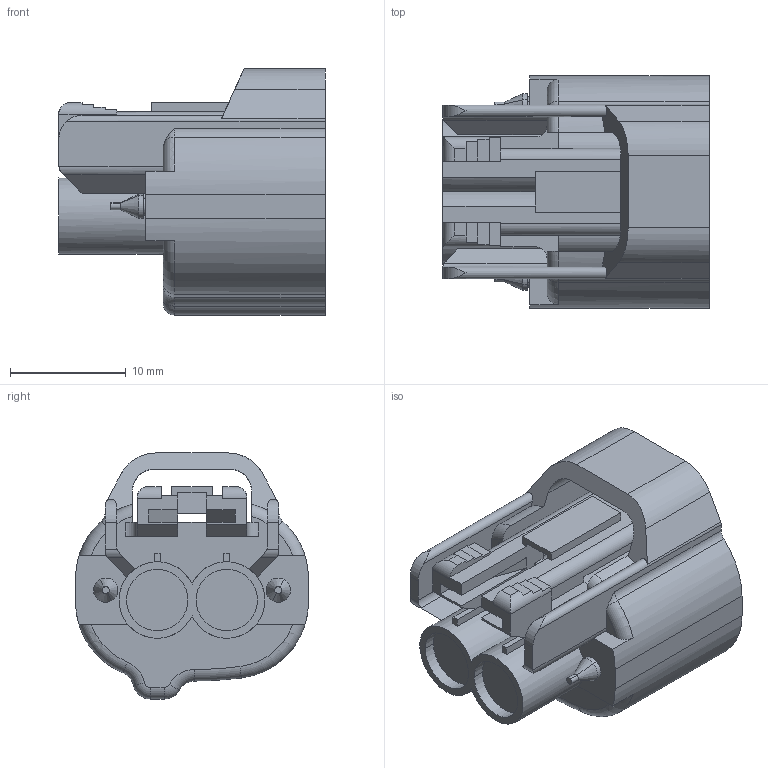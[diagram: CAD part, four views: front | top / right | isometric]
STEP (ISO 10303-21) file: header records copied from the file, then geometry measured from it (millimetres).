
FILE_DESCRIPTION(('CATIA V5 STEP Exchange','CAx-IF Rec.Pracs.--- Model Styling and Organization---1.2---2011-12-15'),'2;1');
FILE_NAME('N:\C-DAM_MyDesk\ENV\900093\6189-0033.stp','2015-01-27T00:25:04+00:00',('none'),('none'),'CATIA Version 5-6 Release 2012 SP4 HF74','CATIA V5 STEP AP214','none');
FILE_SCHEMA(('AUTOMOTIVE_DESIGN { 1 0 10303 214 1 1 1 1 }'));
Length unit declared in the file: millimetre
Products named in the file (1): 6189-0033
Bounding box: 23 x 20.1 x 21.25 mm (x, y, z)
Volume: 3116.2 mm3; surface area: 3762.4 mm2
Topology: 1 solids, 1 shells, 204 faces, 575 edges, 379 vertices
Faces by surface type: plane 119, cylinder 67, torus 14, cone 4
Entity records: 6452 total; most frequent: CARTESIAN_POINT 1423, ORIENTED_EDGE 1150, DIRECTION 845, EDGE_CURVE 575, VERTEX_POINT 379, VECTOR 373, LINE 373, AXIS2_PLACEMENT_3D 317
